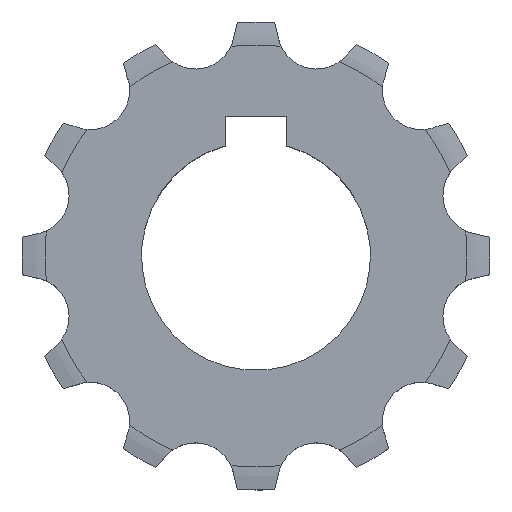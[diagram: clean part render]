
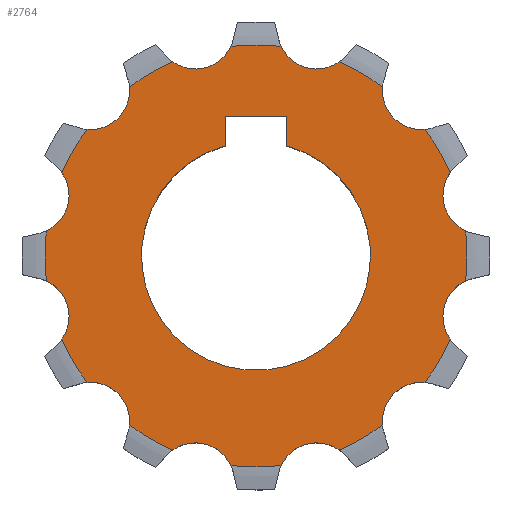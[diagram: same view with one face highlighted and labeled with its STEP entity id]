
A CAD part, top view. The second image highlights one B-rep face of the part: STEP entity #2764.
In plain terms, the highlighted planar face has unit normal (0, 0, 1).
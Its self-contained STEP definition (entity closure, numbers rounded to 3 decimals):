
#33=CARTESIAN_POINT('',(7.938,29.623,4.55));
#34=DIRECTION('',(0.,0.,1.));
#35=DIRECTION('',(-0.908,-0.42,0.));
#36=AXIS2_PLACEMENT_3D('',#33,#34,#35);
#42=CARTESIAN_POINT('',(0.,0.,4.55));
#43=DIRECTION('',(0.,0.,-1.));
#44=DIRECTION('',(0.394,0.919,0.));
#45=AXIS2_PLACEMENT_3D('',#42,#43,#44);
#50=CARTESIAN_POINT('',(21.686,21.686,4.55));
#51=DIRECTION('',(0.,0.,1.));
#52=DIRECTION('',(-0.996,0.09,0.));
#53=AXIS2_PLACEMENT_3D('',#50,#51,#52);
#58=CARTESIAN_POINT('',(0.,0.,4.55));
#59=DIRECTION('',(0.,0.,-1.));
#60=DIRECTION('',(0.801,0.599,0.));
#61=AXIS2_PLACEMENT_3D('',#58,#59,#60);
#66=CARTESIAN_POINT('',(29.623,7.938,4.55));
#67=DIRECTION('',(0.,0.,1.));
#68=DIRECTION('',(-0.817,0.576,0.));
#69=AXIS2_PLACEMENT_3D('',#66,#67,#68);
#74=CARTESIAN_POINT('',(0.,0.,4.55));
#75=DIRECTION('',(0.,0.,-1.));
#76=DIRECTION('',(0.993,0.119,0.));
#77=AXIS2_PLACEMENT_3D('',#74,#75,#76);
#82=CARTESIAN_POINT('',(29.623,-7.938,4.55));
#83=DIRECTION('',(0.,0.,1.));
#84=DIRECTION('',(-0.42,0.908,0.));
#85=AXIS2_PLACEMENT_3D('',#82,#83,#84);
#90=CARTESIAN_POINT('',(0.,0.,4.55));
#91=DIRECTION('',(0.,0.,-1.));
#92=DIRECTION('',(0.919,-0.394,0.));
#93=AXIS2_PLACEMENT_3D('',#90,#91,#92);
#98=CARTESIAN_POINT('',(21.686,-21.686,4.55));
#99=DIRECTION('',(0.,0.,1.));
#100=DIRECTION('',(0.09,0.996,0.));
#101=AXIS2_PLACEMENT_3D('',#98,#99,#100);
#106=CARTESIAN_POINT('',(0.,0.,4.55));
#107=DIRECTION('',(0.,0.,-1.));
#108=DIRECTION('',(0.599,-0.801,0.));
#109=AXIS2_PLACEMENT_3D('',#106,#107,#108);
#114=CARTESIAN_POINT('',(7.938,-29.623,4.55));
#115=DIRECTION('',(0.,0.,1.));
#116=DIRECTION('',(0.576,0.817,0.));
#117=AXIS2_PLACEMENT_3D('',#114,#115,#116);
#122=CARTESIAN_POINT('',(-7.938,-29.623,4.55));
#123=DIRECTION('',(0.,0.,1.));
#124=DIRECTION('',(0.908,0.42,0.));
#125=AXIS2_PLACEMENT_3D('',#122,#123,#124);
#130=CARTESIAN_POINT('',(0.,0.,4.55));
#131=DIRECTION('',(0.,0.,-1.));
#132=DIRECTION('',(-0.394,-0.919,0.));
#133=AXIS2_PLACEMENT_3D('',#130,#131,#132);
#138=CARTESIAN_POINT('',(-21.686,-21.686,4.55));
#139=DIRECTION('',(0.,0.,1.));
#140=DIRECTION('',(0.996,-0.09,0.));
#141=AXIS2_PLACEMENT_3D('',#138,#139,#140);
#146=CARTESIAN_POINT('',(0.,0.,4.55));
#147=DIRECTION('',(0.,0.,-1.));
#148=DIRECTION('',(-0.801,-0.599,0.));
#149=AXIS2_PLACEMENT_3D('',#146,#147,#148);
#154=CARTESIAN_POINT('',(-29.623,-7.938,4.55));
#155=DIRECTION('',(0.,0.,1.));
#156=DIRECTION('',(0.817,-0.576,0.));
#157=AXIS2_PLACEMENT_3D('',#154,#155,#156);
#162=CARTESIAN_POINT('',(0.,0.,4.55));
#163=DIRECTION('',(0.,0.,-1.));
#164=DIRECTION('',(-0.993,-0.119,0.));
#165=AXIS2_PLACEMENT_3D('',#162,#163,#164);
#170=CARTESIAN_POINT('',(-29.623,7.938,4.55));
#171=DIRECTION('',(0.,0.,1.));
#172=DIRECTION('',(0.42,-0.908,0.));
#173=AXIS2_PLACEMENT_3D('',#170,#171,#172);
#178=CARTESIAN_POINT('',(0.,0.,4.55));
#179=DIRECTION('',(0.,0.,-1.));
#180=DIRECTION('',(-0.919,0.394,0.));
#181=AXIS2_PLACEMENT_3D('',#178,#179,#180);
#186=CARTESIAN_POINT('',(-21.686,21.686,4.55));
#187=DIRECTION('',(0.,0.,1.));
#188=DIRECTION('',(-0.09,-0.996,0.));
#189=AXIS2_PLACEMENT_3D('',#186,#187,#188);
#194=CARTESIAN_POINT('',(0.,0.,4.55));
#195=DIRECTION('',(0.,0.,-1.));
#196=DIRECTION('',(-0.599,0.801,0.));
#197=AXIS2_PLACEMENT_3D('',#194,#195,#196);
#202=CARTESIAN_POINT('',(-7.938,29.623,4.55));
#203=DIRECTION('',(0.,0.,1.));
#204=DIRECTION('',(-0.576,-0.817,0.));
#205=AXIS2_PLACEMENT_3D('',#202,#203,#204);
#210=DIRECTION('',(0.,1.,0.));
#211=VECTOR('',#210,3.843);
#212=CARTESIAN_POINT('',(4.,14.457,4.55));
#213=LINE('',#212,#211);
#217=DIRECTION('',(-1.,0.,0.));
#218=VECTOR('',#217,8.);
#219=CARTESIAN_POINT('',(4.,18.3,4.55));
#220=LINE('',#219,#218);
#224=DIRECTION('',(0.,-1.,0.));
#225=VECTOR('',#224,3.843);
#226=CARTESIAN_POINT('',(-4.,18.3,4.55));
#227=LINE('',#226,#225);
#255=CARTESIAN_POINT('',(0.,0.,4.55));
#256=DIRECTION('',(0.,0.,1.));
#257=DIRECTION('',(0.119,0.993,0.));
#258=AXIS2_PLACEMENT_3D('',#255,#256,#257);
#279=CARTESIAN_POINT('',(0.,0.,4.55));
#280=DIRECTION('',(0.,0.,1.));
#281=DIRECTION('',(-0.119,-0.993,0.));
#282=AXIS2_PLACEMENT_3D('',#279,#280,#281);
#1284=CARTESIAN_POINT('',(0.,0.,4.55));
#1285=DIRECTION('',(0.,0.,-1.));
#1286=DIRECTION('',(0.267,0.964,0.));
#1287=AXIS2_PLACEMENT_3D('',#1284,#1285,#1286);
#1406=CARTESIAN_POINT('',(-3.281,27.469,4.55));
#1686=CARTESIAN_POINT('',(-3.281,-27.469,4.55));
#2310=CARTESIAN_POINT('',(3.281,27.469,4.55));
#2409=CARTESIAN_POINT('',(10.893,25.429,4.55));
#2410=CARTESIAN_POINT('',(16.576,22.148,4.55));
#2411=VERTEX_POINT('',#2409);
#2412=VERTEX_POINT('',#2410);
#2413=CARTESIAN_POINT('',(22.148,16.576,4.55));
#2414=CARTESIAN_POINT('',(25.429,10.893,4.55));
#2415=VERTEX_POINT('',#2413);
#2416=VERTEX_POINT('',#2414);
#2417=CARTESIAN_POINT('',(27.469,3.281,4.55));
#2418=CARTESIAN_POINT('',(27.469,-3.281,4.55));
#2419=VERTEX_POINT('',#2417);
#2420=VERTEX_POINT('',#2418);
#2421=CARTESIAN_POINT('',(-10.893,-25.429,4.55));
#2422=CARTESIAN_POINT('',(-16.576,-22.148,4.55));
#2423=VERTEX_POINT('',#2421);
#2424=VERTEX_POINT('',#2422);
#2425=CARTESIAN_POINT('',(-22.148,-16.576,4.55));
#2426=CARTESIAN_POINT('',(-25.429,-10.893,4.55));
#2427=VERTEX_POINT('',#2425);
#2428=VERTEX_POINT('',#2426);
#2429=CARTESIAN_POINT('',(-27.469,-3.281,4.55));
#2430=CARTESIAN_POINT('',(-27.469,3.281,4.55));
#2431=VERTEX_POINT('',#2429);
#2432=VERTEX_POINT('',#2430);
#2458=VERTEX_POINT('',#2310);
#2474=VERTEX_POINT('',#1686);
#2481=CARTESIAN_POINT('',(25.429,-10.893,4.55));
#2482=VERTEX_POINT('',#2481);
#2485=CARTESIAN_POINT('',(22.148,-16.576,4.55));
#2486=CARTESIAN_POINT('',(16.576,-22.148,4.55));
#2487=VERTEX_POINT('',#2485);
#2488=VERTEX_POINT('',#2486);
#2493=CARTESIAN_POINT('',(10.893,-25.429,4.55));
#2494=CARTESIAN_POINT('',(3.281,-27.469,4.55));
#2495=VERTEX_POINT('',#2493);
#2496=VERTEX_POINT('',#2494);
#2525=CARTESIAN_POINT('',(-25.429,10.893,4.55));
#2526=CARTESIAN_POINT('',(-22.148,16.576,4.55));
#2527=VERTEX_POINT('',#2525);
#2528=VERTEX_POINT('',#2526);
#2529=CARTESIAN_POINT('',(-16.576,22.148,4.55));
#2530=CARTESIAN_POINT('',(-10.893,25.429,4.55));
#2531=VERTEX_POINT('',#2529);
#2532=VERTEX_POINT('',#2530);
#2651=CARTESIAN_POINT('',(4.,14.457,4.55));
#2652=VERTEX_POINT('',#2651);
#2653=CARTESIAN_POINT('',(-4.,14.457,4.55));
#2654=VERTEX_POINT('',#2653);
#2655=CARTESIAN_POINT('',(4.,18.3,4.55));
#2656=VERTEX_POINT('',#2655);
#2657=CARTESIAN_POINT('',(-4.,18.3,4.55));
#2658=VERTEX_POINT('',#2657);
#2694=VERTEX_POINT('',#1406);
#2699=CARTESIAN_POINT('',(0.,0.,4.55));
#2700=DIRECTION('',(0.,0.,1.));
#2701=DIRECTION('',(1.,0.,0.));
#2702=AXIS2_PLACEMENT_3D('',#2699,#2700,#2701);
#2703=PLANE('',#2702);
#2705=ORIENTED_EDGE('',*,*,#2704,.F.);
#2707=ORIENTED_EDGE('',*,*,#2706,.T.);
#2709=ORIENTED_EDGE('',*,*,#2708,.T.);
#2711=ORIENTED_EDGE('',*,*,#2710,.T.);
#2713=ORIENTED_EDGE('',*,*,#2712,.T.);
#2715=ORIENTED_EDGE('',*,*,#2714,.T.);
#2717=ORIENTED_EDGE('',*,*,#2716,.T.);
#2719=ORIENTED_EDGE('',*,*,#2718,.T.);
#2721=ORIENTED_EDGE('',*,*,#2720,.T.);
#2723=ORIENTED_EDGE('',*,*,#2722,.T.);
#2725=ORIENTED_EDGE('',*,*,#2724,.T.);
#2727=ORIENTED_EDGE('',*,*,#2726,.T.);
#2729=ORIENTED_EDGE('',*,*,#2728,.F.);
#2731=ORIENTED_EDGE('',*,*,#2730,.T.);
#2733=ORIENTED_EDGE('',*,*,#2732,.T.);
#2735=ORIENTED_EDGE('',*,*,#2734,.T.);
#2737=ORIENTED_EDGE('',*,*,#2736,.T.);
#2739=ORIENTED_EDGE('',*,*,#2738,.T.);
#2741=ORIENTED_EDGE('',*,*,#2740,.T.);
#2743=ORIENTED_EDGE('',*,*,#2742,.T.);
#2745=ORIENTED_EDGE('',*,*,#2744,.T.);
#2747=ORIENTED_EDGE('',*,*,#2746,.T.);
#2749=ORIENTED_EDGE('',*,*,#2748,.T.);
#2751=ORIENTED_EDGE('',*,*,#2750,.T.);
#2752=EDGE_LOOP('',(#2705,#2707,#2709,#2711,#2713,#2715,#2717,#2719,#2721,#2723,
#2725,#2727,#2729,#2731,#2733,#2735,#2737,#2739,#2741,#2743,#2745,#2747,#2749,
#2751));
#2753=FACE_OUTER_BOUND('',#2752,.F.);
#2755=ORIENTED_EDGE('',*,*,#2754,.T.);
#2757=ORIENTED_EDGE('',*,*,#2756,.T.);
#2759=ORIENTED_EDGE('',*,*,#2758,.T.);
#2761=ORIENTED_EDGE('',*,*,#2760,.F.);
#2762=EDGE_LOOP('',(#2755,#2757,#2759,#2761));
#2763=FACE_BOUND('',#2762,.F.);
#2764=ADVANCED_FACE('',(#2753,#2763),#2703,.T.);
#37=CIRCLE('',#36,5.131);
#46=CIRCLE('',#45,27.664);
#54=CIRCLE('',#53,5.131);
#62=CIRCLE('',#61,27.664);
#70=CIRCLE('',#69,5.131);
#78=CIRCLE('',#77,27.664);
#86=CIRCLE('',#85,5.131);
#94=CIRCLE('',#93,27.664);
#102=CIRCLE('',#101,5.131);
#110=CIRCLE('',#109,27.664);
#118=CIRCLE('',#117,5.131);
#126=CIRCLE('',#125,5.131);
#134=CIRCLE('',#133,27.664);
#142=CIRCLE('',#141,5.131);
#150=CIRCLE('',#149,27.664);
#158=CIRCLE('',#157,5.131);
#166=CIRCLE('',#165,27.664);
#174=CIRCLE('',#173,5.131);
#182=CIRCLE('',#181,27.664);
#190=CIRCLE('',#189,5.131);
#198=CIRCLE('',#197,27.664);
#206=CIRCLE('',#205,5.131);
#259=CIRCLE('',#258,27.664);
#283=CIRCLE('',#282,27.664);
#1288=CIRCLE('',#1287,15.);
#2704=EDGE_CURVE('',#2458,#2694,#259,.T.);
#2706=EDGE_CURVE('',#2458,#2411,#37,.T.);
#2708=EDGE_CURVE('',#2411,#2412,#46,.T.);
#2710=EDGE_CURVE('',#2412,#2415,#54,.T.);
#2712=EDGE_CURVE('',#2415,#2416,#62,.T.);
#2714=EDGE_CURVE('',#2416,#2419,#70,.T.);
#2716=EDGE_CURVE('',#2419,#2420,#78,.T.);
#2718=EDGE_CURVE('',#2420,#2482,#86,.T.);
#2720=EDGE_CURVE('',#2482,#2487,#94,.T.);
#2722=EDGE_CURVE('',#2487,#2488,#102,.T.);
#2724=EDGE_CURVE('',#2488,#2495,#110,.T.);
#2726=EDGE_CURVE('',#2495,#2496,#118,.T.);
#2728=EDGE_CURVE('',#2474,#2496,#283,.T.);
#2730=EDGE_CURVE('',#2474,#2423,#126,.T.);
#2732=EDGE_CURVE('',#2423,#2424,#134,.T.);
#2734=EDGE_CURVE('',#2424,#2427,#142,.T.);
#2736=EDGE_CURVE('',#2427,#2428,#150,.T.);
#2738=EDGE_CURVE('',#2428,#2431,#158,.T.);
#2740=EDGE_CURVE('',#2431,#2432,#166,.T.);
#2742=EDGE_CURVE('',#2432,#2527,#174,.T.);
#2744=EDGE_CURVE('',#2527,#2528,#182,.T.);
#2746=EDGE_CURVE('',#2528,#2531,#190,.T.);
#2748=EDGE_CURVE('',#2531,#2532,#198,.T.);
#2750=EDGE_CURVE('',#2532,#2694,#206,.T.);
#2754=EDGE_CURVE('',#2652,#2656,#213,.T.);
#2756=EDGE_CURVE('',#2656,#2658,#220,.T.);
#2758=EDGE_CURVE('',#2658,#2654,#227,.T.);
#2760=EDGE_CURVE('',#2652,#2654,#1288,.T.);
